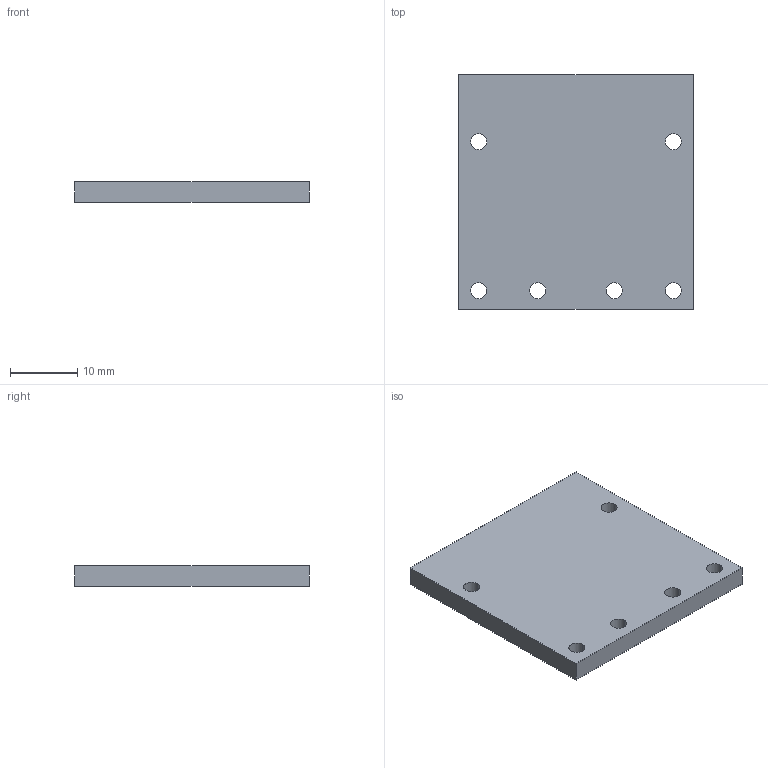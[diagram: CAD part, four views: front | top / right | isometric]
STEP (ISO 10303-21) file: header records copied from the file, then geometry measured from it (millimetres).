
FILE_DESCRIPTION (( 'STEP AP203' ), '1' );
FILE_NAME ('êðûøêà âåðõíÿÿ.STEP', '2020-07-21T11:58:24', ( '' ), ( '' ), 'SwSTEP 2.0', 'SolidWorks 2020', '' );
FILE_SCHEMA (( 'CONFIG_CONTROL_DESIGN' ));
Length unit declared in the file: millimetre
Products named in the file (1): êðûøêà âåðõíÿÿ
Bounding box: 35 x 35 x 3 mm (x, y, z)
Volume: 3593.6 mm3; surface area: 2951.4 mm2
Topology: 1 solids, 1 shells, 18 faces, 48 edges, 32 vertices
Faces by surface type: cylinder 12, plane 6
Entity records: 677 total; most frequent: DIRECTION 110, CARTESIAN_POINT 99, ORIENTED_EDGE 96, EDGE_CURVE 48, AXIS2_PLACEMENT_3D 43, VERTEX_POINT 32, EDGE_LOOP 30, VECTOR 24
